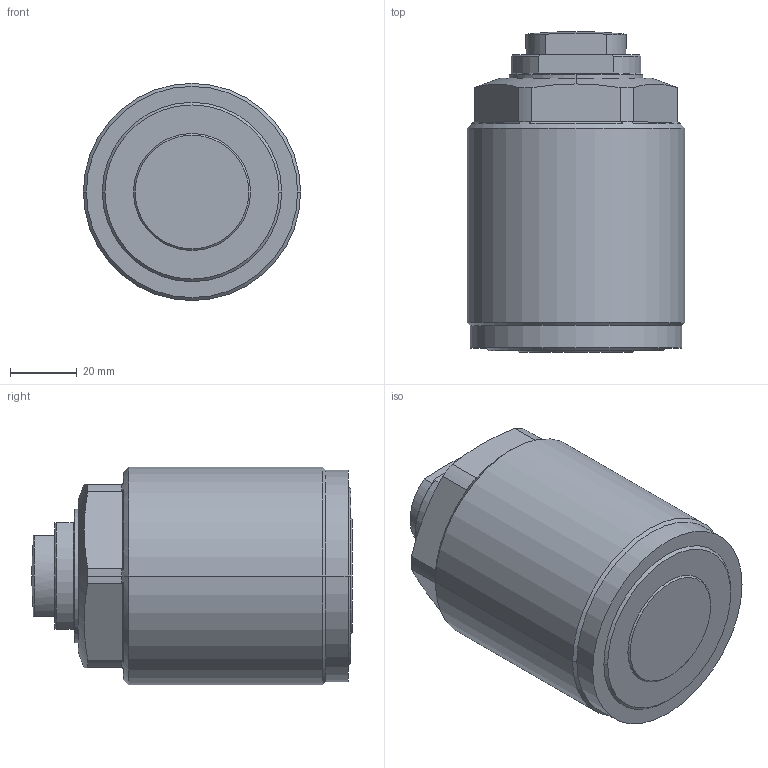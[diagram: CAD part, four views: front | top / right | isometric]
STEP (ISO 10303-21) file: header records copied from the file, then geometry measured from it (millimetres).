
FILE_DESCRIPTION(/* description */ (''),/* implementation_level */ '2;1');
FILE_NAME(/* name */ 'PGSC25-L.stp',/* time_stamp */ '2025-01-05T10:55:13+08:00',/* author */ (''),/* organization */ (''),/* preprocessor_version */ 'ST-DEVELOPER v16.7',/* originating_system */ 'SIEMENS PLM Software NX 12.0',/* authorisation */ '');
FILE_SCHEMA (('AUTOMOTIVE_DESIGN { 1 0 10303 214 3 1 1 1 }'));
Length unit declared in the file: millimetre
Products named in the file (4): PGSC25-L-03; PGSC25-L-02; PGSC25-L-01; CSW25M-L_step
Assembly tree (3 placements, depth 2):
  CSW25M-L_step
    PGSC25-L-01
    PGSC25-L-02
    PGSC25-L-03
Bounding box: 65 x 96 x 65 mm (x, y, z)
Volume: 267496.6 mm3; surface area: 31881.3 mm2
Topology: 3 solids, 3 shells, 90 faces, 214 edges, 136 vertices
Faces by surface type: cylinder 35, plane 29, cone 20, torus 4, sphere 2
Entity records: 3049 total; most frequent: CARTESIAN_POINT 856, DIRECTION 461, ORIENTED_EDGE 428, EDGE_CURVE 214, AXIS2_PLACEMENT_3D 193, VERTEX_POINT 136, CIRCLE 99, EDGE_LOOP 98
